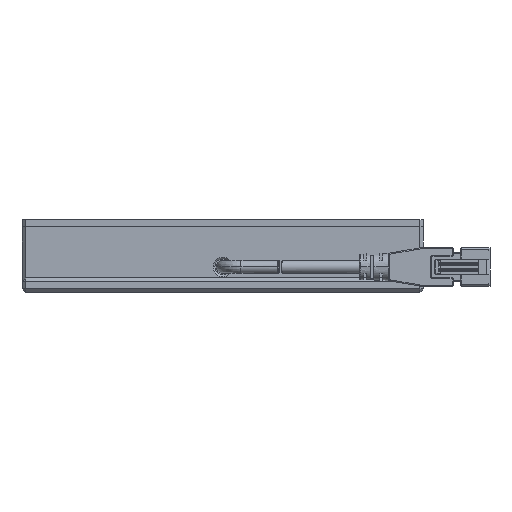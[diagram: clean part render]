
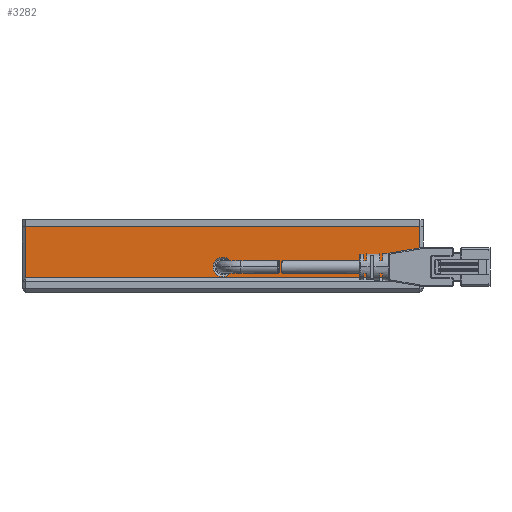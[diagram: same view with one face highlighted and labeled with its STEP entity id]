
A CAD part, front view. The second image highlights one B-rep face of the part: STEP entity #3282.
In plain terms, the highlighted planar face has unit normal (0, -1, 0).
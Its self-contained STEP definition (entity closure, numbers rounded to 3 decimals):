
#53 = AXIS2_PLACEMENT_3D ( 'NONE', #2172, #8265, #4211 ) ;
#314 = CARTESIAN_POINT ( 'NONE',  ( -55., -80., 18. ) ) ;
#316 = EDGE_CURVE ( 'NONE', #4788, #3055, #637, .T. ) ;
#380 = ORIENTED_EDGE ( 'NONE', *, *, #3786, .T. ) ;
#507 = DIRECTION ( 'NONE',  ( 0., 0., 1. ) ) ;
#637 = LINE ( 'NONE', #2239, #1505 ) ;
#825 = DIRECTION ( 'NONE',  ( 0., 0., 1. ) ) ;
#877 = ORIENTED_EDGE ( 'NONE', *, *, #3527, .T. ) ;
#1011 = FACE_BOUND ( 'NONE', #6373, .T. ) ;
#1076 = DIRECTION ( 'NONE',  ( 1., 0., 0. ) ) ;
#1217 = DIRECTION ( 'NONE',  ( 0., 1., 0. ) ) ;
#1505 = VECTOR ( 'NONE', #4989, 1000. ) ;
#1580 = ORIENTED_EDGE ( 'NONE', *, *, #4796, .F. ) ;
#1660 = FACE_OUTER_BOUND ( 'NONE', #5091, .T. ) ;
#1775 = CARTESIAN_POINT ( 'NONE',  ( 0., -80., 9.65 ) ) ;
#2172 = CARTESIAN_POINT ( 'NONE',  ( -55., -80., 18. ) ) ;
#2199 = VERTEX_POINT ( 'NONE', #4870 ) ;
#2239 = CARTESIAN_POINT ( 'NONE',  ( 54., -80., 18. ) ) ;
#2277 = LINE ( 'NONE', #314, #3311 ) ;
#2393 = AXIS2_PLACEMENT_3D ( 'NONE', #4313, #4871, #825 ) ;
#2714 = LINE ( 'NONE', #5827, #3874 ) ;
#2826 = PLANE ( 'NONE',  #53 ) ;
#3055 = VERTEX_POINT ( 'NONE', #4073 ) ;
#3282 = ADVANCED_FACE ( 'NONE', ( #1011, #1660 ), #2826, .F. ) ;
#3311 = VECTOR ( 'NONE', #1076, 1000. ) ;
#3363 = CARTESIAN_POINT ( 'NONE',  ( -54., -80., 18. ) ) ;
#3527 = EDGE_CURVE ( 'NONE', #7512, #4366, #4285, .T. ) ;
#3786 = EDGE_CURVE ( 'NONE', #4020, #2199, #2714, .T. ) ;
#3874 = VECTOR ( 'NONE', #7177, 1000. ) ;
#4020 = VERTEX_POINT ( 'NONE', #3363 ) ;
#4073 = CARTESIAN_POINT ( 'NONE',  ( 54., -80., 18. ) ) ;
#4211 = DIRECTION ( 'NONE',  ( 0., 0., 1. ) ) ;
#4285 = CIRCLE ( 'NONE', #7524, 2.65 ) ;
#4313 = CARTESIAN_POINT ( 'NONE',  ( 0., -80., 7. ) ) ;
#4366 = VERTEX_POINT ( 'NONE', #1775 ) ;
#4788 = VERTEX_POINT ( 'NONE', #7731 ) ;
#4796 = EDGE_CURVE ( 'NONE', #4020, #3055, #2277, .T. ) ;
#4870 = CARTESIAN_POINT ( 'NONE',  ( -54., -80., 4. ) ) ;
#4871 = DIRECTION ( 'NONE',  ( 0., 1., 0. ) ) ;
#4989 = DIRECTION ( 'NONE',  ( 0., 0., 1. ) ) ;
#5091 = EDGE_LOOP ( 'NONE', ( #5351, #8015, #1580, #380 ) ) ;
#5105 = EDGE_CURVE ( 'NONE', #4366, #7512, #7649, .T. ) ;
#5351 = ORIENTED_EDGE ( 'NONE', *, *, #5594, .T. ) ;
#5418 = LINE ( 'NONE', #8748, #7002 ) ;
#5594 = EDGE_CURVE ( 'NONE', #2199, #4788, #5418, .T. ) ;
#5827 = CARTESIAN_POINT ( 'NONE',  ( -54., -80., 18. ) ) ;
#6373 = EDGE_LOOP ( 'NONE', ( #877, #7101 ) ) ;
#6446 = CARTESIAN_POINT ( 'NONE',  ( 0., -80., 4.35 ) ) ;
#7002 = VECTOR ( 'NONE', #7463, 1000. ) ;
#7101 = ORIENTED_EDGE ( 'NONE', *, *, #5105, .T. ) ;
#7177 = DIRECTION ( 'NONE',  ( 0., 0., -1. ) ) ;
#7282 = CARTESIAN_POINT ( 'NONE',  ( 0., -80., 7. ) ) ;
#7463 = DIRECTION ( 'NONE',  ( 1., 0., 0. ) ) ;
#7512 = VERTEX_POINT ( 'NONE', #6446 ) ;
#7524 = AXIS2_PLACEMENT_3D ( 'NONE', #7282, #1217, #507 ) ;
#7649 = CIRCLE ( 'NONE', #2393, 2.65 ) ;
#7731 = CARTESIAN_POINT ( 'NONE',  ( 54., -80., 4. ) ) ;
#8015 = ORIENTED_EDGE ( 'NONE', *, *, #316, .T. ) ;
#8265 = DIRECTION ( 'NONE',  ( 0., 1., 0. ) ) ;
#8748 = CARTESIAN_POINT ( 'NONE',  ( -55., -80., 4. ) ) ;
